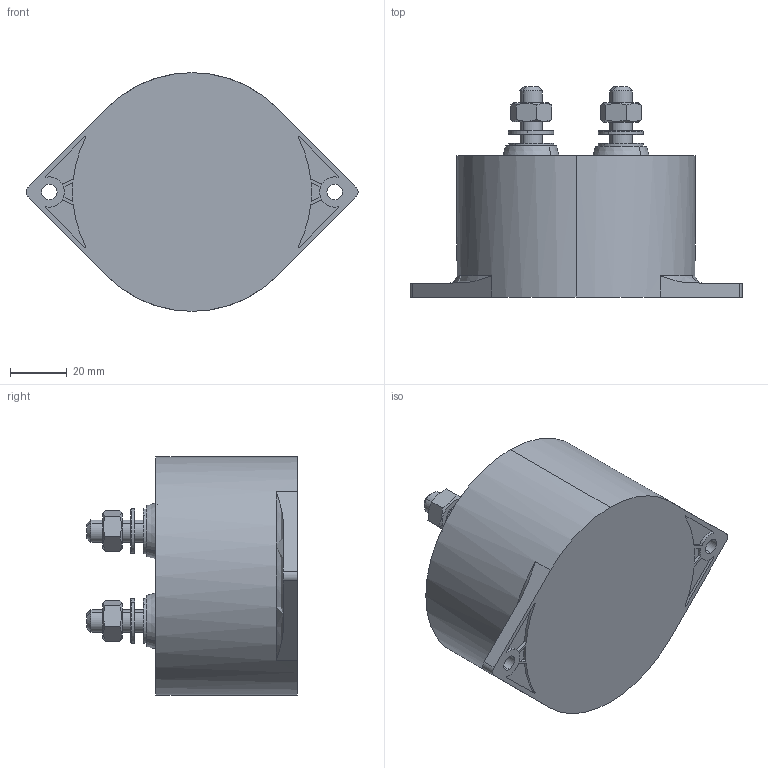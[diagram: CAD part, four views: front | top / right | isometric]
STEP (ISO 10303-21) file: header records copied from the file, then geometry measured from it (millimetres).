
FILE_DESCRIPTION (( 'STEP AP203' ), '1' );
FILE_NAME ('B25631E_50X74.STEP', '2021-11-02T03:54:07', ( '' ), ( '' ), 'SwSTEP 2.0', 'SolidWorks 2017', '' );
FILE_SCHEMA (( 'CONFIG_CONTROL_DESIGN' ));
Length unit declared in the file: millimetre
Products named in the file (1): B25631E_50X74
Bounding box: 117.48 x 74.5 x 84.5 mm (x, y, z)
Volume: 56407.7 mm3; surface area: 52604.2 mm2
Topology: 3 solids, 6 shells, 251 faces, 603 edges, 390 vertices
Faces by surface type: cylinder 113, plane 104, cone 32, torus 2
Entity records: 7660 total; most frequent: CARTESIAN_POINT 1521, DIRECTION 1339, ORIENTED_EDGE 1206, EDGE_CURVE 603, AXIS2_PLACEMENT_3D 512, VERTEX_POINT 390, LINE 315, VECTOR 315
